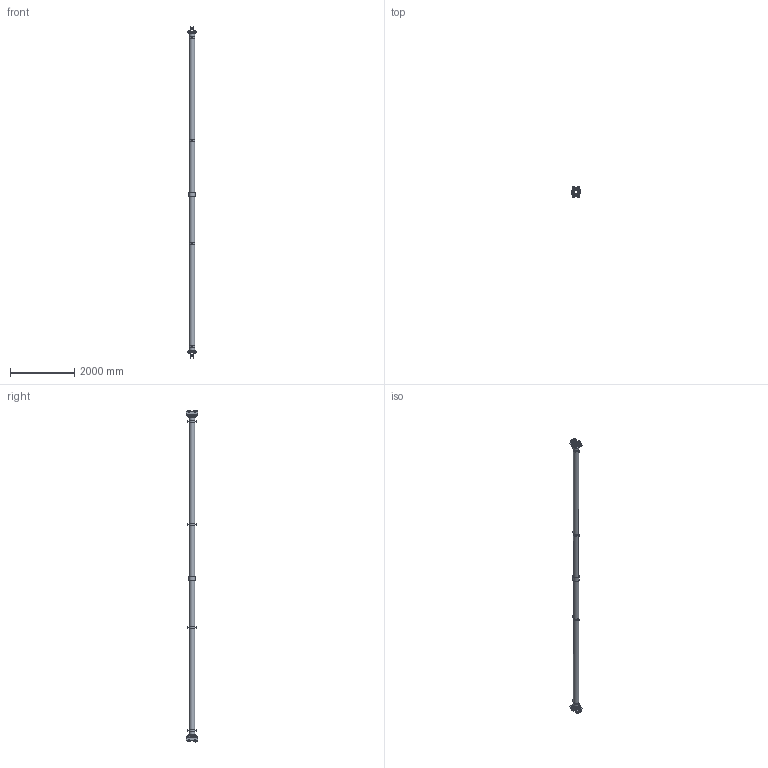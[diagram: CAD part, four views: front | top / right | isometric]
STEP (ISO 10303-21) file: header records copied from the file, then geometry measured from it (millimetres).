
FILE_DESCRIPTION(/* description */ (''),/* implementation_level */ '2;1');
FILE_NAME(/* name */ 'K:\NEMANJA\0700-6\CABLE REEL ACCESSORIES\01006602 CGSB\STP NEMA\89811.stp',/* time_stamp */ '2017-12-01T09:56:56+01:00',/* author */ ('zeldjo01'),/* organization */ ('Hillmar Industries Ltd.'),/* preprocessor_version */ 'ST-DEVELOPER v16.1',/* originating_system */ 'Autodesk Inventor 2016',/* authorisation */ '');
FILE_SCHEMA (('AUTOMOTIVE_DESIGN { 1 0 10303 214 3 1 1 }'));
Products named in the file (1): 89811_Shrinkwrap_1
Bounding box: 279.4 x 350 x 10312.4 mm (x, y, z)
Volume: 59826947.5 mm3; surface area: 11181784.3 mm2
Topology: 18 solids, 20 shells, 1838 faces, 5130 edges, 3226 vertices
Faces by surface type: plane 982, cylinder 456, bspline 256, torus 88, cone 56
Full cylindrical faces by diameter (mm): 14 x8, 19.25 x8, 19.842 x32, 24.5 x8, 27.686 x8, 80.518 x8, 145.5 x2, 146 x2, 152.4 x8, 168.17 x3, 188.328 x1, 192.088 x2, 279.4 x2
Entity records: 74515 total; most frequent: CARTESIAN_POINT 28815, ORIENTED_EDGE 10024, DIRECTION 7950, EDGE_CURVE 4882, VERTEX_POINT 3150, AXIS2_PLACEMENT_3D 3021, EDGE_LOOP 2136, LINE 1908
